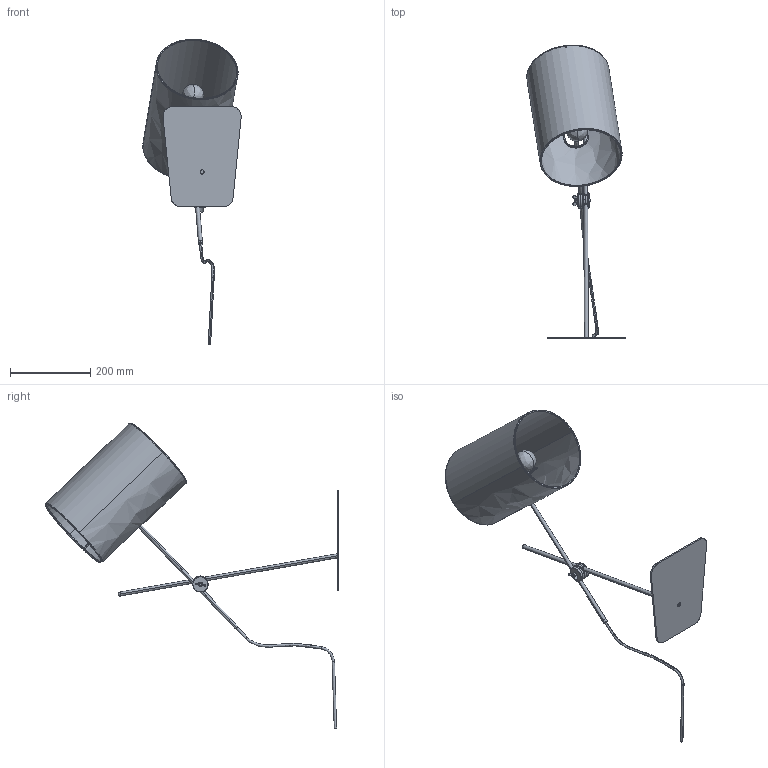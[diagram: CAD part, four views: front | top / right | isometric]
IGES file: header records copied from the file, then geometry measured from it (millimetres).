
Start section: SolidWorks IGES file using analytic representation for surfaces
Global section: file name: E:\3D lampy\Zelda\Zelda_6012.IGS; native system: SolidWorks 2016; preprocessor: SolidWorks 2016; author: Asia; date: 170602.140929; units: millimetre
Bounding box: 245.11 x 731.9 x 761 mm (x, y, z)
Surface area: 581149.2 mm2 (no closed solid volume)
Topology: 0 solids, 0 shells, 604 faces, 10312 edges, 10260 vertices
Faces by surface type: bspline 317, revolution 287
